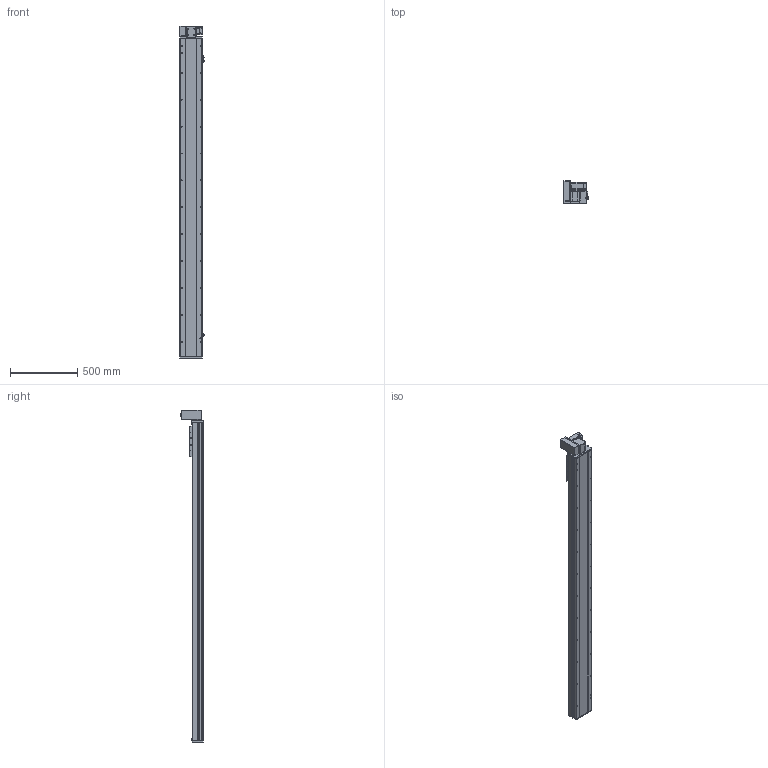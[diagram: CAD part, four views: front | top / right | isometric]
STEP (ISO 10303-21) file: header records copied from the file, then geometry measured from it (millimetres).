
FILE_DESCRIPTION (( 'STEP AP214' ), '1' );
FILE_NAME ('TPE17-L40-2050-LU-T40-C4.STEP', '2023-04-12T05:57:43', ( '' ), ( '' ), 'SwSTEP 2.0', 'SolidWorks 2020', '' );
FILE_SCHEMA (( 'AUTOMOTIVE_DESIGN' ));
Length unit declared in the file: millimetre
Products named in the file (12): hex nuts, style 1-grades ab gb_GB_FASTENER_NUT_SNAB1 M3-N; 葩璃 詩湍110^TPE17-L40-LU-T40-C4; 葩璃 TPE17-L-001 菁釱MZ-170-01^TPE17-L40-LU-T40-C4; 葩璃 TPT14-L-009 萇儂啣^TPE17-L40-LU-T40-C4_400W; 葩璃 TPE17 賑雄殤^TPE17-L40-LU-T40-C4; hexagon head bolts-full thread gb_GB_FASTENER_BOLT_STBAB A M5X16-N; 葩璃 pm-t65-672^TPE17-L40-LU-T40-C4; hexagon socket head cap screws gb_GB_FASTENER_SCREWS_HSHCS M3X6-N; 葩璃 TPE17-L-002 耜裔ZTMZ-135-04^TPE17-L40-LU-T40-C4; 葩璃 侂狟400W^TPE17-L40-LU-T40-C4; 葩璃 TPE17-L-007 々湍釱MZ-169x88^TPE17-L40-LU-T40-C4_TPE17; TPE17-L40-2050-LU-T40-C4
Assembly tree (24 placements, depth 2):
  TPE17-L40-2050-LU-T40-C4
    葩璃 TPE17-L-001 菁釱MZ-170-01^TPE17-L40-LU-T40-C4
    葩璃 TPE17-L-002 耜裔ZTMZ-135-04^TPE17-L40-LU-T40-C4  x2
    葩璃 詩湍110^TPE17-L40-LU-T40-C4
    葩璃 TPE17-L-007 々湍釱MZ-169x88^TPE17-L40-LU-T40-C4_TPE17
    葩璃 TPT14-L-009 萇儂啣^TPE17-L40-LU-T40-C4_400W
    葩璃 TPE17 賑雄殤^TPE17-L40-LU-T40-C4
    葩璃 pm-t65-672^TPE17-L40-LU-T40-C4  x3
    葩璃 侂狟400W^TPE17-L40-LU-T40-C4
    hexagon socket head cap screws gb_GB_FASTENER_SCREWS_HSHCS M3X6-N  x6
    hex nuts, style 1-grades ab gb_GB_FASTENER_NUT_SNAB1 M3-N  x6
    hexagon head bolts-full thread gb_GB_FASTENER_BOLT_STBAB A M5X16-N
Bounding box: 183.7 x 173.15 x 2469 mm (x, y, z)
Volume: 21807414.4 mm3; surface area: 2784358.3 mm2
Topology: 35 solids, 35 shells, 1738 faces, 4427 edges, 2778 vertices
Faces by surface type: plane 981, cylinder 485, cone 226, bspline 34, torus 12
Entity records: 41111 total; most frequent: CARTESIAN_POINT 7990, DIRECTION 6592, ORIENTED_EDGE 6342, EDGE_CURVE 3171, AXIS2_PLACEMENT_3D 2253, VECTOR 2086, LINE 2086, VERTEX_POINT 2041
